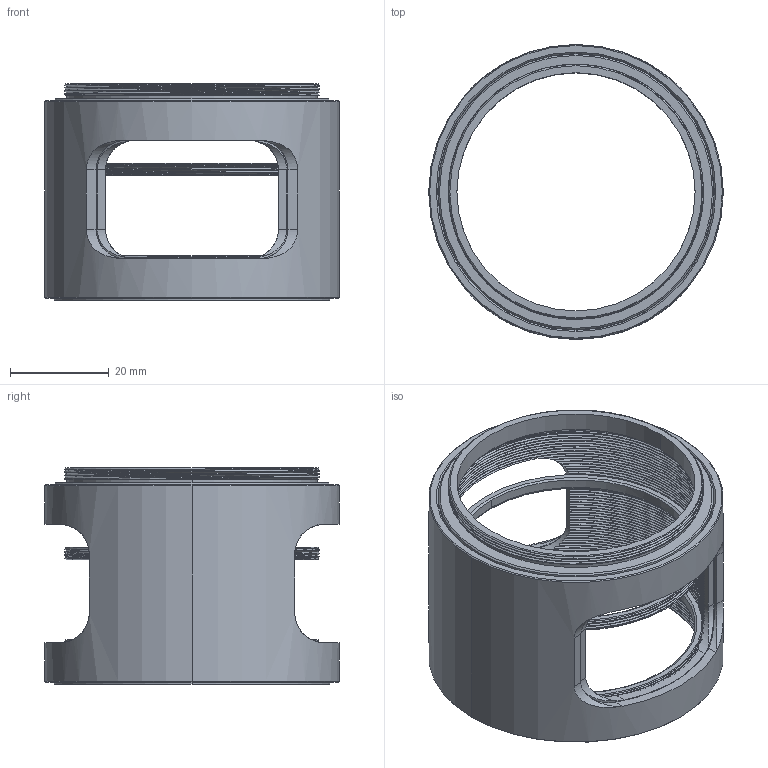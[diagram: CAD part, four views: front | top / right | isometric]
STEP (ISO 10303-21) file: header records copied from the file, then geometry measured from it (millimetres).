
FILE_DESCRIPTION((''),'2;1');
FILE_NAME('CSA2-40V2L_ASM','2021-05-11T',('Administrator'),(''),'CREO PARAMETRIC BY PTC INC, 2015290','CREO PARAMETRIC BY PTC INC, 2015290','');
FILE_SCHEMA(('CONFIG_CONTROL_DESIGN'));
Products named in the file (4): CSA2-40V2L_A1; CSA2-40V2L_A2; CSK4; CSA2-40V2L_ASM
Assembly tree (4 placements, depth 2):
  CSA2-40V2L_ASM
    CSA2-40V2L_A1
    CSA2-40V2L_A2
    CSK4  x2
Bounding box: 59.69 x 59.69 x 43.81 mm (x, y, z)
Volume: 21303.8 mm3; surface area: 29810.8 mm2
Topology: 4 solids, 4 shells, 470 faces, 1329 edges, 871 vertices
Faces by surface type: bspline 193, cylinder 191, plane 54, cone 32
Entity records: 66868 total; most frequent: CARTESIAN_POINT 57629, ORIENTED_EDGE 2468, EDGE_CURVE 1234, DIRECTION 983, B_SPLINE_CURVE_WITH_KNOTS 865, VERTEX_POINT 809, EDGE_LOOP 455, FACE_OUTER_BOUND 436
